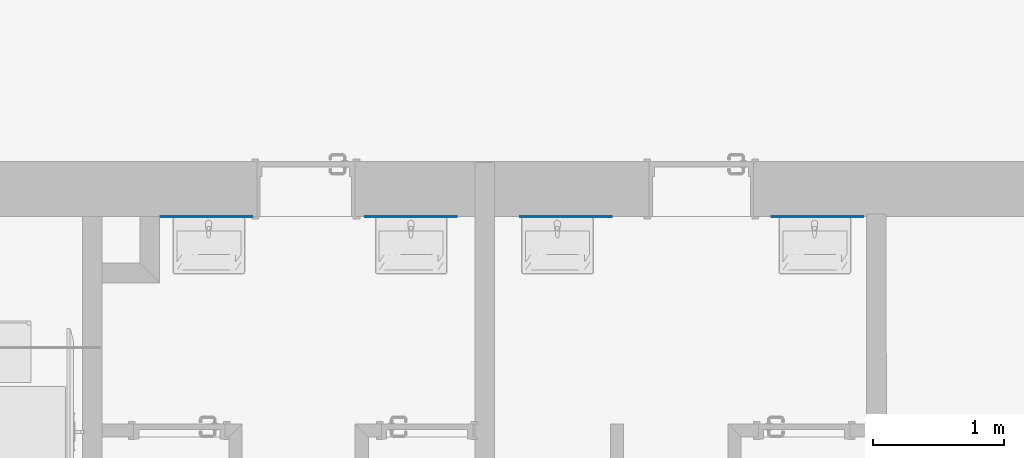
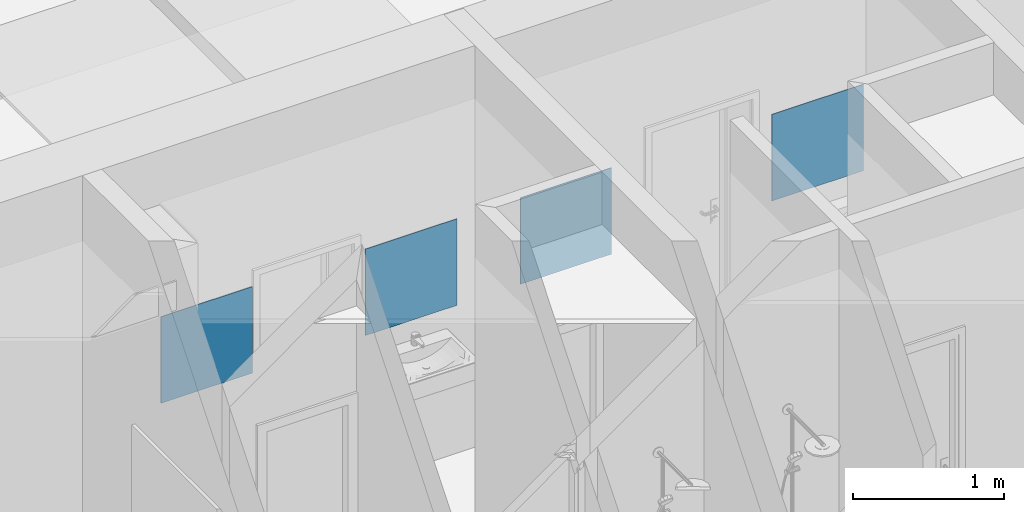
# One storey, part 41 of 194: 4 discrete accessories.
"""IFC2X3 building model written with IfcOpenShell, lengths in millimetres."""

import ifcopenshell
import ifcopenshell.guid

model = None  # the IFC model being written
_history = None  # IfcOwnerHistory: only IFC2X3 demands one
_inside = {}  # id of a spatial element -> (the spatial element, [elements in it])
_under = {}  # id of a project, library or spatial element -> (it, [spatial elements below it])
_declared = {}  # id of a project -> (the project, [libraries it declares])
_typed = {}  # id of a type object -> (the type object, [elements of that type])
_made_of = {}  # id of a material, layer set ... -> (it, [elements and type objects made of it])


def new_model(schema):
    """Start an empty IFC model of exactly this schema.

    Asked for "IFC4X3", IfcOpenShell would pick the latest addendum, in which some entities
    have other attributes; the version numbers below select the first issue.
    IFC2X3 requires an IfcOwnerHistory on every rooted entity: one is made here for all.
    """
    global model, _history
    if schema == "IFC4X3":
        model = ifcopenshell.file(schema_version=(4, 3, 0, 0))
    else:
        model = ifcopenshell.file(schema=schema)
    _inside.clear()
    _under.clear()
    _declared.clear()
    _typed.clear()
    _made_of.clear()
    _history = None
    if model.schema == "IFC2X3":
        org = make("IfcOrganization", Name="unknown")
        user = make(
            "IfcPersonAndOrganization",
            ThePerson=make("IfcPerson", FamilyName="unknown"),
            TheOrganization=org,
        )
        app = make(
            "IfcApplication",
            ApplicationDeveloper=org,
            Version="unknown",
            ApplicationFullName="unknown",
            ApplicationIdentifier="unknown",
        )
        _history = make(
            "IfcOwnerHistory",
            OwningUser=user,
            OwningApplication=app,
            ChangeAction="ADDED",
            CreationDate=0,
        )
    return model


def make(cls, **values):
    """One entity of the class cls with the attributes given. An attribute that is None is left unset."""
    return model.create_entity(
        cls, **{name: value for name, value in values.items() if value is not None}
    )


def entity(cls, *values):
    """Any entity or typed value of the class cls, its attributes in the order of the schema. None: left unset."""
    e = model.create_entity(cls)
    for i, value in enumerate(values):
        if value is not None:
            e[i] = value
    return e


def rooted(cls, **values):
    """An entity with a GlobalId (a new one), such as an element, a storey or a relation."""
    return make(cls, GlobalId=ifcopenshell.guid.new(), OwnerHistory=_history, **values)


def si_unit(unit_type, name, prefix=None):
    """IfcSIUnit, for example si_unit("LENGTHUNIT", "METRE", prefix="MILLI")."""
    return make("IfcSIUnit", UnitType=unit_type, Prefix=prefix, Name=name)


def converted_unit(unit_type, name, factor, base, dimensions=None, offset=None):
    """IfcConversionBasedUnit, such as the inch: factor (a typed value) times the base unit."""
    return make(
        "IfcConversionBasedUnit"
        if offset is None
        else "IfcConversionBasedUnitWithOffset",
        ConversionOffset=offset,
        Dimensions=None
        if dimensions is None
        else entity("IfcDimensionalExponents", *dimensions),
        UnitType=unit_type,
        Name=name,
        ConversionFactor=make(
            "IfcMeasureWithUnit", ValueComponent=factor, UnitComponent=base
        ),
    )


def derived_unit(unit_type, elements):
    """IfcDerivedUnit: a product of units, each with its exponent."""
    return make(
        "IfcDerivedUnit",
        Elements=[
            make("IfcDerivedUnitElement", Unit=unit, Exponent=power)
            for unit, power in elements
        ],
        UnitType=unit_type,
    )


def money_unit(currency):
    """IfcMonetaryUnit."""
    return make("IfcMonetaryUnit", Currency=currency)


def assignment(units):
    """IfcUnitAssignment: the units of a project."""
    return None if units is None else make("IfcUnitAssignment", Units=units)


def point(xyz):
    """IfcCartesianPoint."""
    return None if xyz is None else make("IfcCartesianPoint", Coordinates=xyz)


def direction(xyz):
    """IfcDirection."""
    return None if xyz is None else make("IfcDirection", DirectionRatios=xyz)


def frame(location, z_axis=None, x_axis=None):
    """IfcAxis2Placement3D, a coordinate frame: its origin and axes. An axis left out is left unset."""
    return make(
        "IfcAxis2Placement3D",
        Location=point(location),
        Axis=direction(z_axis),
        RefDirection=direction(x_axis),
    )


def origin_with_axes():
    """The frame at (0, 0, 0) with the z axis (0, 0, 1) and the x axis (1, 0, 0) written out."""
    return frame((0.0, 0.0, 0.0), z_axis=(0.0, 0.0, 1.0), x_axis=(1.0, 0.0, 0.0))


def place(relative_to, where):
    """IfcLocalPlacement: puts the frame where relative to a parent placement (None: the world)."""
    return make(
        "IfcLocalPlacement", PlacementRelTo=relative_to, RelativePlacement=where
    )


def context(
    kind, dimensions, precision=None, world=None, true_north=None, identifier=None
):
    """IfcGeometricRepresentationContext, for example the 3D "Model" context."""
    return make(
        "IfcGeometricRepresentationContext",
        ContextIdentifier=identifier,
        ContextType=kind,
        CoordinateSpaceDimension=dimensions,
        Precision=precision,
        WorldCoordinateSystem=world,
        TrueNorth=true_north,
    )


def subcontext(parent, identifier, kind, view, scale=None):
    """IfcGeometricRepresentationSubContext, for example "Body" below "Model"."""
    return make(
        "IfcGeometricRepresentationSubContext",
        ContextIdentifier=identifier,
        ContextType=kind,
        ParentContext=parent,
        TargetScale=scale,
        TargetView=view,
    )


def project(units=None, contexts=None):
    """IfcProject with its units and contexts."""
    return rooted(
        "IfcProject",
        Name="project",
        RepresentationContexts=contexts,
        UnitsInContext=assignment(units),
    )


def spatial(cls, under=None, at=None, **own):
    """A site, building, storey or space (cls), placed at a placement, below another one or the project."""
    s = rooted(cls, ObjectPlacement=at, **own)
    if under is not None:
        _under.setdefault(under.id(), (under, []))[1].append(s)
    return s


def polyline(points):
    """IfcPolyline through the points."""
    return make("IfcPolyline", Points=[point(p) for p in points])


def outline(outer, holes=None, kind="AREA"):
    """IfcArbitraryClosedProfileDef: a profile drawn as a closed curve; with holes, ...WithVoids."""
    if holes is None:
        return make("IfcArbitraryClosedProfileDef", ProfileType=kind, OuterCurve=outer)
    return make(
        "IfcArbitraryProfileDefWithVoids",
        ProfileType=kind,
        OuterCurve=outer,
        InnerCurves=holes,
    )


def extrude(swept, where, along, depth):
    """IfcExtrudedAreaSolid: the profile swept, set in the frame where, extruded along a direction by depth."""
    return make(
        "IfcExtrudedAreaSolid",
        SweptArea=swept,
        Position=where,
        ExtrudedDirection=direction(along),
        Depth=depth,
    )


def shape(context_of_items, identifier, shape_type, items):
    """IfcShapeRepresentation: the items that make up one representation, for example the "Body"."""
    return make(
        "IfcShapeRepresentation",
        ContextOfItems=context_of_items,
        RepresentationIdentifier=identifier,
        RepresentationType=shape_type,
        Items=items,
    )


def material(Name=None, Category=None):
    """IfcMaterial."""
    return make("IfcMaterial", Name=Name, Category=Category)


def made_of(thing, what):
    """Note that an element or type object is made of a material, layer set ...; save() writes the relation."""
    if what is not None:
        _made_of.setdefault(what.id(), (what, []))[1].append(thing)
    return thing


def type_object(cls, material=None, **own):
    """A type object (cls), such as IfcWallType, which elements share."""
    return made_of(rooted(cls, **own), material)


def element(
    cls,
    number,
    at=None,
    inside=None,
    cuts=None,
    type_object=None,
    material=None,
    context=None,
    identifier="Body",
    shape_type=None,
    held_by="IfcProductDefinitionShape",
    body=None,
    shapes=None,
    **own,
):
    """One element of the class cls, such as IfcWall. Its Tag is "e" and its number.

    at: its placement. inside: the storey or other place that contains it. cuts: it is an
    opening in that element (IfcRelVoidsElement). A single representation is given by context,
    identifier, shape_type and body (its items); several are given by shapes. held_by: the class
    of the entity that holds the representations. save() writes the other relations.
    """
    e = rooted(cls, Tag="e%d" % number, ObjectPlacement=at, **own)
    if body is not None:
        shapes = [shape(context, identifier, shape_type, body)]
    if shapes is not None:
        e.Representation = make(held_by, Representations=shapes)
    if inside is not None:
        _inside.setdefault(inside.id(), (inside, []))[1].append(e)
    if cuts is not None:
        rooted(
            "IfcRelVoidsElement", RelatingBuildingElement=cuts, RelatedOpeningElement=e
        )
    if type_object is not None:
        _typed.setdefault(type_object.id(), (type_object, []))[1].append(e)
    return made_of(e, material)


def aggregate(whole, parts):
    """IfcRelAggregates: a whole, such as a stair, and the parts it consists of."""
    return rooted("IfcRelAggregates", RelatingObject=whole, RelatedObjects=parts)


def save(model, path):
    """Write the relations noted so far, then the file.

    IfcRelAggregates (storeys below a building ...), IfcRelContainedInSpatialStructure (elements
    in a storey), IfcRelDefinesByType, IfcRelAssociatesMaterial and IfcRelDeclares: one each for
    every whole, place, type object, material and project.
    """
    for whole, parts in _under.values():
        aggregate(whole, parts)
    for where, things in _inside.values():
        rooted(
            "IfcRelContainedInSpatialStructure",
            RelatedElements=things,
            RelatingStructure=where,
        )
    for kind, things in _typed.values():
        rooted("IfcRelDefinesByType", RelatedObjects=things, RelatingType=kind)
    for what, things in _made_of.values():
        rooted("IfcRelAssociatesMaterial", RelatedObjects=things, RelatingMaterial=what)
    for by, libraries in _declared.values():
        rooted("IfcRelDeclares", RelatingContext=by, RelatedDefinitions=libraries)
    model.write(path)


model = new_model("IFC2X3")

# Units and contexts
model_context = context("Model", 3, precision=1e-05, world=origin_with_axes(), true_north=direction((0.0, 1.0)))
body_context = subcontext(model_context, "Body", "Model", "MODEL_VIEW")
ifc_project = project(units=[si_unit("LENGTHUNIT", "METRE", prefix="MILLI"), si_unit("AREAUNIT", "SQUARE_METRE"), si_unit("VOLUMEUNIT", "CUBIC_METRE"), converted_unit("PLANEANGLEUNIT", "DEGREE", entity("IfcPlaneAngleMeasure", 0.0174532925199), si_unit("PLANEANGLEUNIT", "RADIAN"), dimensions=[0, 0, 0, 0, 0, 0, 0]), si_unit("SOLIDANGLEUNIT", "STERADIAN"), money_unit("EUR"), converted_unit("TIMEUNIT", "Year", entity("IfcTimeMeasure", 31556926.0), si_unit("TIMEUNIT", "SECOND"), dimensions=[0, 0, 1, 0, 0, 0, 0]), si_unit("MASSUNIT", "GRAM", prefix="KILO"), si_unit("THERMODYNAMICTEMPERATUREUNIT", "DEGREE_CELSIUS"), si_unit("LUMINOUSINTENSITYUNIT", "LUMEN"), si_unit("ENERGYUNIT", "JOULE", prefix="MEGA"), derived_unit("THERMALCONDUCTANCEUNIT", [(si_unit("POWERUNIT", "WATT"), 1), (si_unit("LENGTHUNIT", "METRE"), -1), (si_unit("THERMODYNAMICTEMPERATUREUNIT", "KELVIN"), -1)]), derived_unit("SPECIFICHEATCAPACITYUNIT", [(si_unit("ENERGYUNIT", "JOULE"), 1), (si_unit("MASSUNIT", "GRAM", prefix="KILO"), -1), (si_unit("THERMODYNAMICTEMPERATUREUNIT", "KELVIN"), -1)]), derived_unit("MASSDENSITYUNIT", [(si_unit("MASSUNIT", "GRAM", prefix="KILO"), 1), (si_unit("VOLUMEUNIT", "CUBIC_METRE"), -1)])], contexts=[model_context])

# Site, building, storey
site_placement = place(None, origin_with_axes())
site = spatial("IfcSite", under=ifc_project, at=site_placement, Name="Site", CompositionType="ELEMENT")
building_placement = place(site_placement, origin_with_axes())
building = spatial("IfcBuilding", under=site, at=building_placement, Name="Building", CompositionType="ELEMENT")
storey_placement = place(building_placement, frame((0.0, 0.0, 3000.0), z_axis=(0.0, 0.0, 1.0), x_axis=(1.0, 0.0, 0.0)))
storey = spatial("IfcBuildingStorey", under=building, at=storey_placement, Name="2 KORRUS", CompositionType="ELEMENT", Elevation=3000.0)

# Discrete accessories
ifc_material = material(Name="Peegel")
discrete_accessory_type = type_object("IfcDiscreteAccessoryType", Name="Peegel 5")
for number, where, z_axis, x_axis in (
    (1, (75978.9128467, 40583.0649281, 1200.0), (0.0, 0.0, 1.0), (-1.0, 0.0, 0.0)),
    (2, (74051.913333, 40583.0649281, 1200.0), (0.0, 0.0, 1.0), (-1.0, 0.0, 0.0)),
    (3, (72867.7745754, 40583.0649281, 1200.0), (0.0, 0.0, 1.0), (-1.0, 0.0, 0.0)),
    (4, (71301.0946794, 40583.0649281, 1200.0), (0.0, 0.0, 1.0), (-1.0, 0.0, 0.0)),
):
    element("IfcDiscreteAccessory", number, at=place(storey_placement, frame(where, z_axis=z_axis, x_axis=x_axis)), inside=storey, type_object=discrete_accessory_type, material=ifc_material, Name="Peegel", context=body_context, shape_type="SweptSolid", body=[
        extrude(outline(polyline([(0.0, 0.0), (700.000000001, 0.0), (700.000000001, 5.00000000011), (0.0, 5.00000000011), (0.0, 0.0)])), origin_with_axes(), (0.0, 0.0, 1.0), 700.0),
    ])

save(model, "model.ifc")
